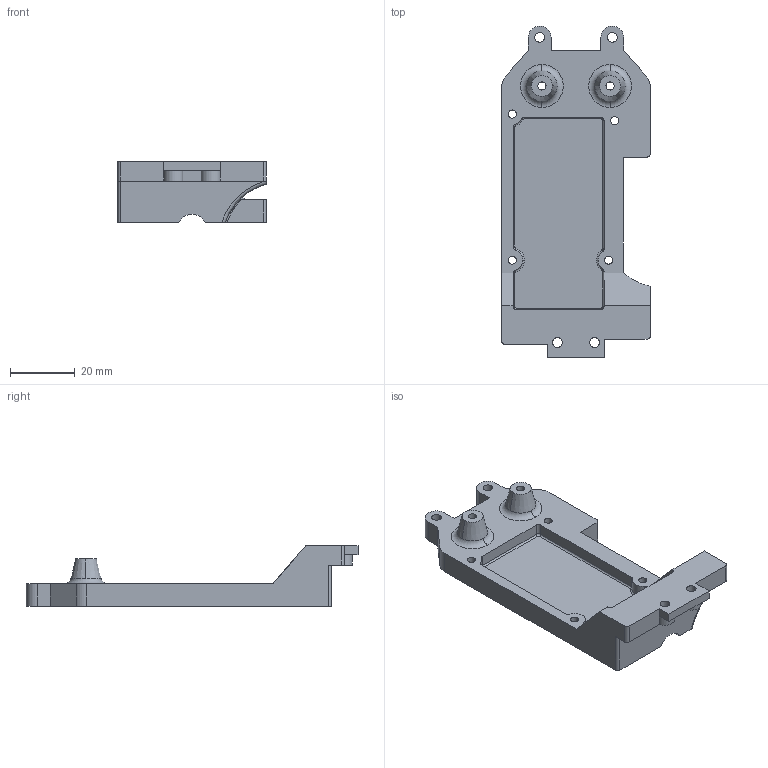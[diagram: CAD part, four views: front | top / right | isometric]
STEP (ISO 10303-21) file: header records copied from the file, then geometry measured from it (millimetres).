
FILE_DESCRIPTION (( 'STEP AP214' ), '1' );
FILE_NAME ('Ì44_ÏÌ_Âåðíèé êîðïóñ.STEP', '2019-03-21T12:16:47', ( '' ), ( '' ), 'SwSTEP 2.0', 'SolidWorks 2018', '' );
FILE_SCHEMA (( 'AUTOMOTIVE_DESIGN' ));
Length unit declared in the file: millimetre
Products named in the file (1): Ì44_ÏÌ_Âåðíèé êîðïóñ
Bounding box: 45.8 x 102.39 x 18.7 mm (x, y, z)
Volume: 22124.5 mm3; surface area: 12727.8 mm2
Topology: 1 solids, 1 shells, 113 faces, 308 edges, 199 vertices
Faces by surface type: cylinder 53, plane 37, torus 19, cone 4
Entity records: 3735 total; most frequent: CARTESIAN_POINT 684, DIRECTION 675, ORIENTED_EDGE 616, EDGE_CURVE 308, AXIS2_PLACEMENT_3D 262, VERTEX_POINT 199, LINE 151, VECTOR 151
